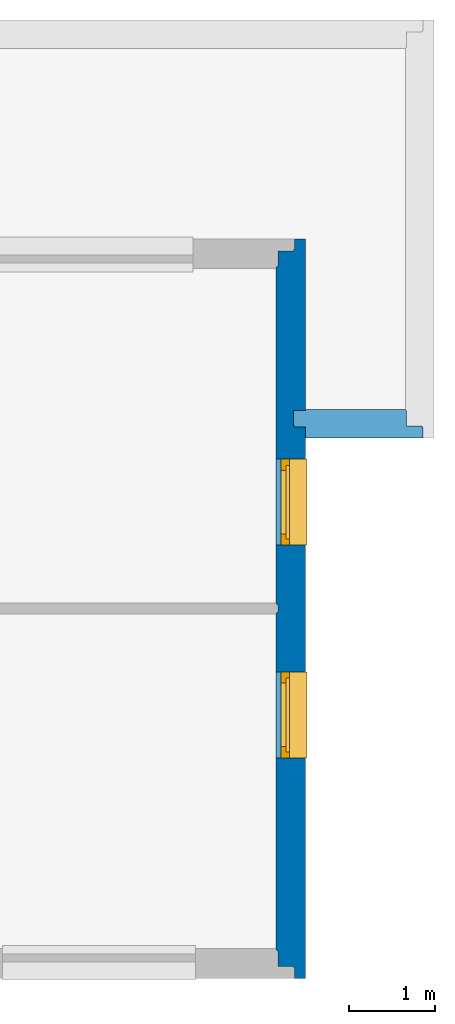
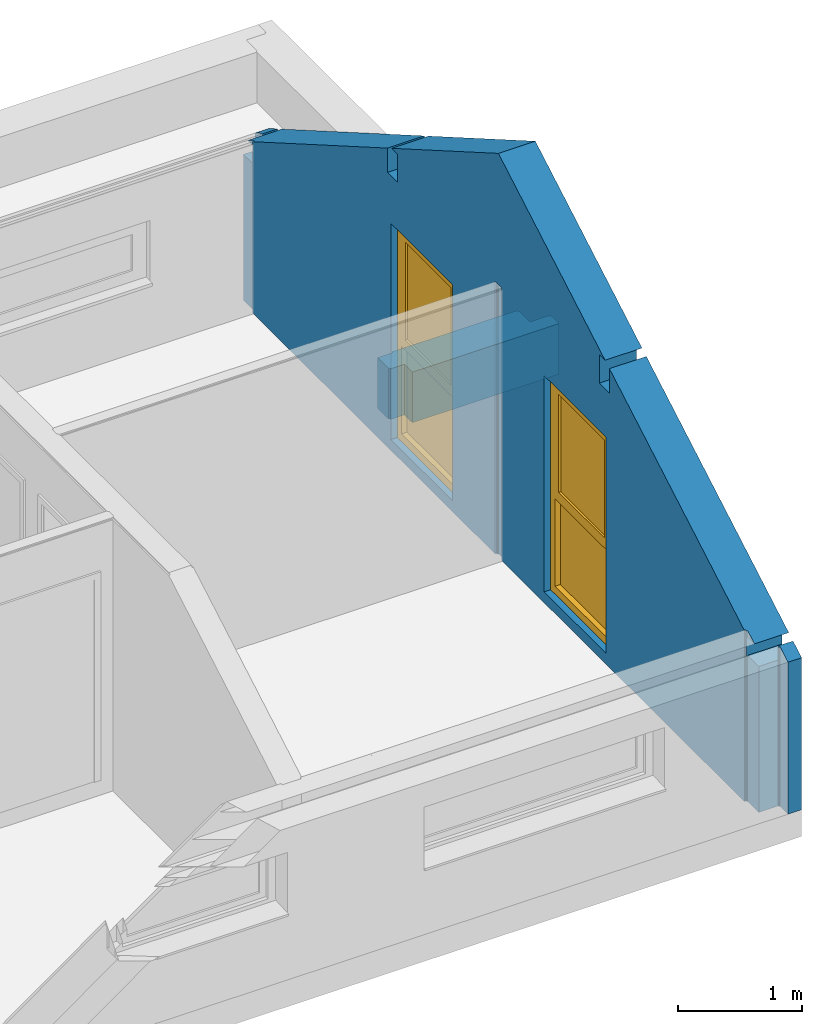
# One storey, part 6 of 7: 2 walls, 2 windows, 2 openings.
"""IFC2X3 building model written with IfcOpenShell, lengths in millimetres."""

from ifc_helpers import new_model, entity, si_unit, converted_unit, derived_unit, money_unit, direction, frame, origin_with_axes, place, context, subcontext, project, spatial, open_shell, faceted_brep, surface_model, material, material_list, type_object, element, fill, save


model = new_model("IFC2X3")

# Units and contexts
model_context = context("Model", 3, precision=0.01, world=origin_with_axes(), true_north=direction((0.0, 1.0)))
body_context = subcontext(model_context, "Body", "Model", "MODEL_VIEW")
ifc_project = project(units=[si_unit("LENGTHUNIT", "METRE", prefix="MILLI"), si_unit("AREAUNIT", "SQUARE_METRE"), si_unit("VOLUMEUNIT", "CUBIC_METRE"), converted_unit("PLANEANGLEUNIT", "DEGREE", entity("IfcPlaneAngleMeasure", 0.0174532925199), si_unit("PLANEANGLEUNIT", "RADIAN"), dimensions=[0, 0, 0, 0, 0, 0, 0]), si_unit("SOLIDANGLEUNIT", "STERADIAN"), money_unit("USD"), converted_unit("TIMEUNIT", "Year", entity("IfcTimeMeasure", 31556926.0), si_unit("TIMEUNIT", "SECOND"), dimensions=[0, 0, 1, 0, 0, 0, 0]), si_unit("MASSUNIT", "GRAM", prefix="KILO"), si_unit("THERMODYNAMICTEMPERATUREUNIT", "DEGREE_CELSIUS"), si_unit("LUMINOUSINTENSITYUNIT", "LUMEN"), si_unit("ENERGYUNIT", "JOULE", prefix="MEGA"), derived_unit("THERMALCONDUCTANCEUNIT", [(si_unit("POWERUNIT", "WATT"), 1), (si_unit("LENGTHUNIT", "METRE"), -1), (si_unit("THERMODYNAMICTEMPERATUREUNIT", "KELVIN"), -1)]), derived_unit("SPECIFICHEATCAPACITYUNIT", [(si_unit("ENERGYUNIT", "JOULE"), 1), (si_unit("MASSUNIT", "GRAM", prefix="KILO"), -1), (si_unit("THERMODYNAMICTEMPERATUREUNIT", "KELVIN"), -1)]), derived_unit("MASSDENSITYUNIT", [(si_unit("MASSUNIT", "GRAM", prefix="KILO"), 1), (si_unit("VOLUMEUNIT", "CUBIC_METRE"), -1)])], contexts=[model_context])

# Site, building, storey
site_placement = place(None, origin_with_axes())
site = spatial("IfcSite", under=ifc_project, at=site_placement, Name="Lokalizacja", CompositionType="ELEMENT")
building_placement = place(site_placement, origin_with_axes())
building = spatial("IfcBuilding", under=site, at=building_placement, Name="Budynek", CompositionType="ELEMENT")
storey_placement = place(building_placement, frame((0.0, 0.0, 2954.0), z_axis=(0.0, 0.0, 1.0), x_axis=(1.0, 0.0, 0.0)))
storey = spatial("IfcBuildingStorey", under=building, at=storey_placement, Name="DG", CompositionType="ELEMENT", Elevation=2954.0)

# Wall, openings, windows
ifc_material_1 = material(Name="Płyty styropianowe miękkie")
ifc_material_2 = material(Name="Płyta OSB")
ifc_material_3 = material(Name="Drewno konstrukcyjne")
ifc_material_4 = material(Name="Płyta GK")
ifc_material_list_1 = material_list([ifc_material_1, ifc_material_2, ifc_material_3, ifc_material_2, ifc_material_4])
wall_type_1 = type_object("IfcWallType", Name="002- _dan_SZ_345 345", PredefinedType="NOTDEFINED")
wall_1_placement = place(storey_placement, frame((8640.00006108, 1.16529008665e-09, -160.0), z_axis=(0.0, 0.0, 1.0), x_axis=(0.0, -1.0, 0.0)))
wall_1 = element("IfcWall", 1, at=wall_1_placement, inside=storey, type_object=wall_type_1, material=ifc_material_list_1, Name="SZ2", context=body_context, shape_type="Brep", body=[
    faceted_brep([(8135.00031537, 216.999990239, 1580.90301349), (8135.00031537, 345.0, 1580.90301349), (8135.00031537, 345.0, 1441.31753233), (8135.00031537, 216.999990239, 1441.31753233), (8274.99728939, 345.000012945, 1500.07572285), (8274.99728939, 216.999991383, 1500.07572285), (3965.00011567, 345.000009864, 3988.45375131), (5690.90864033, 345.0, 2992.0), (5601.00236524, 345.0, 2992.0), (5601.00236524, 345.0, 2712.0), (5761.00236524, 345.0, 2712.0), (5761.00236524, 345.0, 2951.53136905), (8065.00031537, 345.0, 1621.31753233), (7955.00031537, 345.0, 1621.31753233), (7955.00031537, 345.0, 1441.31753233), (8274.99728939, 345.0, 0.0), (1847.00000896, 345.0, 0.0), (1847.00000896, 345.000014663, 500.0), (1655.00000896, 345.000014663, 500.0), (1655.00000896, 345.0, 0.0), (-344.999995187, 345.0, 0.0), (-344.999995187, 345.00000447, 1500.07397858), (-205.0, 345.0, 1580.90301349), (-205.0, 345.0, 1441.31753233), (-25.0, 345.0, 1441.31753233), (-25.0, 345.0, 1621.31753233), (-135.000000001, 345.0, 1621.31753233), (2169.00015984, 345.0, 2951.53264483), (2169.00015984, 345.0, 2712.0), (2329.00015984, 345.0, 2712.0), (2329.00015984, 345.0, 2992.0), (2239.09167504, 345.0, 2992.0), (7955.00031537, 216.999990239, 1441.31753233), (5690.90864033, 216.999990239, 2992.0), (3965.00010232, 216.999987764, 3988.45375901), (2239.09167504, 216.999990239, 2992.0), (2329.00015984, 216.999990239, 2992.0), (2329.00015984, 216.999990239, 2712.0), (2169.00015984, 216.999990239, 2712.0), (2169.00015984, 216.999990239, 2951.53264483), (-135.000000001, 216.999990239, 1621.31753233), (-25.0, 216.999990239, 1621.31753233), (-25.0, 216.999990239, 1441.31753233), (-205.0, 216.999990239, 1441.31753233), (-205.0, 216.999990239, 1580.90301349), (-344.999995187, 216.999987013, 1500.07397858), (-344.999995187, 217.0, 0.0), (1655.00000896, 217.0, 0.0), (1655.00000896, 216.999990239, 500.0), (1847.00000896, 216.999990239, 500.0), (1847.00000896, 217.0, 0.0), (8274.99728939, 217.0, 0.0), (7955.00031537, 216.999990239, 1621.31753233), (8065.00031537, 216.999990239, 1621.31753233), (5761.00236524, 216.999990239, 2951.53136905), (5761.00236524, 216.999990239, 2712.0), (5601.00236524, 216.999990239, 2712.0), (5601.00236524, 216.999990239, 2992.0)], [[[0, 1, 2, 3]], [[4, 1, 0, 5]], [[6, 7, 8, 9, 10, 11, 12, 13, 14, 2, 1, 4, 15, 16, 17, 18, 19, 20, 21, 22, 23, 24, 25, 26, 27, 28, 29, 30, 31]], [[32, 3, 2, 14]], [[33, 34, 35, 36, 37, 38, 39, 40, 41, 42, 43, 44, 45, 46, 47, 48, 49, 50, 51, 5, 0, 3, 32, 52, 53, 54, 55, 56, 57]], [[4, 5, 51, 15]], [[7, 6, 34, 33]], [[7, 33, 57, 8]], [[57, 56, 9, 8]], [[56, 55, 10, 9]], [[54, 11, 10, 55]], [[11, 54, 53, 12]], [[12, 53, 52, 13]], [[52, 32, 14, 13]], [[16, 15, 51, 50]], [[16, 50, 49, 17]], [[49, 48, 18, 17]], [[18, 48, 47, 19]], [[47, 46, 20, 19]], [[46, 45, 21, 20]], [[44, 22, 21, 45]], [[23, 22, 44, 43]], [[43, 42, 24, 23]], [[42, 41, 25, 24]], [[41, 40, 26, 25]], [[27, 26, 40, 39]], [[28, 27, 39, 38]], [[38, 37, 29, 28]], [[37, 36, 30, 29]], [[36, 35, 31, 30]], [[34, 6, 31, 35]]]),
    faceted_brep([(8135.00031537, 205.0, 1580.90301349), (8135.00031537, 216.999990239, 1580.90301349), (8135.00031537, 216.999990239, 1441.31753233), (8135.00031537, 205.0, 1441.31753233), (8146.99728939, 216.999990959, 1573.97655731), (8146.99728939, 205.0, 1573.97655731), (3965.00010232, 216.999987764, 3988.45375901), (5690.90864033, 216.999990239, 2992.0), (5601.00236524, 216.999990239, 2992.0), (5601.00236524, 216.999990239, 2712.0), (5761.00236524, 216.999990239, 2712.0), (5761.00236524, 216.999990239, 2951.53136905), (8065.00031537, 216.999990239, 1621.31753233), (7955.00031537, 216.999990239, 1621.31753233), (7955.00031537, 216.999990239, 1441.31753233), (8146.99728939, 217.0, 0.0), (1835.00000896, 217.0, 0.0), (1835.00000896, 216.999990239, 500.0), (1655.00000896, 216.999990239, 500.0), (1655.00000896, 217.0, 0.0), (-217.0, 217.0, 0.0), (-217.0, 216.999986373, 1573.97481026), (-205.0, 216.999990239, 1580.90301349), (-205.0, 216.999990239, 1441.31753233), (-25.0, 216.999990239, 1441.31753233), (-25.0, 216.999990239, 1621.31753233), (-135.000000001, 216.999990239, 1621.31753233), (2169.00015984, 216.999990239, 2951.53264483), (2169.00015984, 216.999990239, 2712.0), (2329.00015984, 216.999990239, 2712.0), (2329.00015984, 216.999990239, 2992.0), (2239.09167504, 216.999990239, 2992.0), (7955.00031537, 205.0, 1441.31753233), (5690.90864033, 205.0, 2992.0), (3965.00010107, 205.0, 3988.45375974), (2239.09167504, 205.0, 2992.0), (2329.00015984, 205.0, 2992.0), (2329.00015984, 205.0, 2712.0), (2169.00015984, 205.0, 2712.0), (2169.00015984, 205.0, 2951.53264483), (-135.000000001, 205.0, 1621.31753233), (-25.0, 205.0, 1621.31753233), (-25.0, 205.0, 1441.31753233), (-205.0, 205.0, 1441.31753233), (-205.0, 205.0, 1580.90301349), (-217.0, 205.0, 1573.97481026), (-217.0, 205.0, 0.0), (1655.00000896, 205.0, 0.0), (1655.00000896, 205.0, 500.0), (1835.00000896, 205.0, 500.0), (1835.00000896, 205.0, 0.0), (8146.99728939, 205.0, 0.0), (7955.00031537, 205.0, 1621.31753233), (8065.00031537, 205.0, 1621.31753233), (5761.00236524, 205.0, 2951.53136905), (5761.00236524, 205.0, 2712.0), (5601.00236524, 205.0, 2712.0), (5601.00236524, 205.0, 2992.0)], [[[0, 1, 2, 3]], [[4, 1, 0, 5]], [[6, 7, 8, 9, 10, 11, 12, 13, 14, 2, 1, 4, 15, 16, 17, 18, 19, 20, 21, 22, 23, 24, 25, 26, 27, 28, 29, 30, 31]], [[32, 3, 2, 14]], [[33, 34, 35, 36, 37, 38, 39, 40, 41, 42, 43, 44, 45, 46, 47, 48, 49, 50, 51, 5, 0, 3, 32, 52, 53, 54, 55, 56, 57]], [[4, 5, 51, 15]], [[7, 6, 34, 33]], [[7, 33, 57, 8]], [[57, 56, 9, 8]], [[56, 55, 10, 9]], [[54, 11, 10, 55]], [[11, 54, 53, 12]], [[12, 53, 52, 13]], [[52, 32, 14, 13]], [[51, 50, 16, 15]], [[16, 50, 49, 17]], [[17, 49, 48, 18]], [[18, 48, 47, 19]], [[47, 46, 20, 19]], [[46, 45, 21, 20]], [[44, 22, 21, 45]], [[23, 22, 44, 43]], [[43, 42, 24, 23]], [[42, 41, 25, 24]], [[41, 40, 26, 25]], [[27, 26, 40, 39]], [[28, 27, 39, 38]], [[38, 37, 29, 28]], [[37, 36, 30, 29]], [[36, 35, 31, 30]], [[34, 6, 31, 35]]]),
    faceted_brep([(5761.00236524, 25.0, 2951.53136905), (5761.00236524, 205.0, 2951.53136905), (5761.00236524, 205.0, 2712.0), (5761.00236524, 25.0, 2712.0), (8065.00031537, 25.0, 1621.31753233), (8065.00031537, 205.0, 1621.31753233), (3965.00010107, 205.0, 3988.45375974), (5690.90864033, 205.0, 2992.0), (5601.00236524, 205.0, 2992.0), (5601.00236524, 205.0, 2712.0), (7955.00031537, 205.0, 1621.31753233), (7955.00031537, 205.0, 1441.31753233), (8135.00031537, 205.0, 1441.31753233), (8134.99728939, 205.0, 0.0), (-205.0, 205.0, 0.0), (-205.0, 205.0, 1441.31753233), (-25.0, 205.0, 1441.31753233), (-25.0, 205.0, 1621.31753233), (-135.000000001, 205.0, 1621.31753233), (2169.00015984, 205.0, 2951.53264483), (2169.00015984, 205.0, 2712.0), (2329.00015984, 205.0, 2712.0), (2329.00015984, 205.0, 2992.0), (2239.09167504, 205.0, 2992.0), (5601.00236524, 25.0, 2712.0), (5690.90864033, 25.0, 2992.0), (3965.0000823, 25.0, 3988.45377058), (2239.09167504, 25.0, 2992.0), (2329.00015984, 25.0, 2992.0), (2329.00015984, 25.0, 2712.0), (2169.00015984, 25.0, 2712.0), (2169.00015984, 25.0, 2951.53264483), (-135.000000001, 25.0, 1621.31753233), (-25.0, 25.0, 1621.31753233), (-25.0, 25.0, 1441.31753233), (-205.0, 25.0, 1441.31753233), (-205.0, 25.0, 0.0), (8134.99728939, 25.0, 0.0), (8135.00031537, 25.0, 1441.31753233), (7955.00031537, 25.0, 1441.31753233), (7955.00031537, 25.0, 1621.31753233), (5601.00236524, 25.0, 2992.0)], [[[0, 1, 2, 3]], [[1, 0, 4, 5]], [[6, 7, 8, 9, 2, 1, 5, 10, 11, 12, 13, 14, 15, 16, 17, 18, 19, 20, 21, 22, 23]], [[24, 3, 2, 9]], [[25, 26, 27, 28, 29, 30, 31, 32, 33, 34, 35, 36, 37, 38, 39, 40, 4, 0, 3, 24, 41]], [[5, 4, 40, 10]], [[7, 6, 26, 25]], [[7, 25, 41, 8]], [[41, 24, 9, 8]], [[40, 39, 11, 10]], [[39, 38, 12, 11]], [[37, 13, 12, 38]], [[37, 36, 14, 13]], [[14, 36, 35, 15]], [[35, 34, 16, 15]], [[34, 33, 17, 16]], [[33, 32, 18, 17]], [[19, 18, 32, 31]], [[20, 19, 31, 30]], [[30, 29, 21, 20]], [[29, 28, 22, 21]], [[28, 27, 23, 22]], [[26, 6, 23, 27]]]),
    faceted_brep([(5761.00236524, 13.0, 2951.53136905), (5761.00236524, 25.0, 2951.53136905), (5761.00236524, 25.0, 2712.0), (5761.00236524, 13.0, 2712.0), (7954.99728939, 12.9999855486, 1684.82780899), (7954.99728939, 25.0, 1684.82780899), (3965.0000823, 25.0, 3988.45377058), (5690.90864033, 25.0, 2992.0), (5601.00236524, 25.0, 2992.0), (5601.00236524, 25.0, 2712.0), (7954.99728939, 25.0, 0.0), (4004.99907417, 25.0, 0.0), (4004.99907417, 25.0, 2690.0), (3924.99907417, 25.0, 2690.0), (3924.99907417, 25.0, 0.0), (-25.0, 25.0, 0.0), (-25.0, 25.0, 1684.82606195), (2169.00015984, 25.0, 2951.53264483), (2169.00015984, 25.0, 2712.0), (2329.00015984, 25.0, 2712.0), (2329.00015984, 25.0, 2992.0), (2239.09167504, 25.0, 2992.0), (5601.00236524, 13.0, 2712.0), (5690.90864033, 13.0, 2992.0), (3965.00008104, 12.9999903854, 3988.4537713), (2239.09167504, 13.0, 2992.0), (2329.00015984, 13.0, 2992.0), (2329.00015984, 13.0, 2712.0), (2169.00015984, 13.0, 2712.0), (2169.00015984, 13.0, 2951.53264483), (-25.0, 12.9999953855, 1684.82606195), (-25.0, 13.0, 0.0), (3924.99907417, 13.0, 0.0), (3924.99907417, 12.9999854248, 2690.0), (4004.99907417, 12.9999854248, 2690.0), (4004.99907417, 13.0, 0.0), (7954.99728939, 13.0, 0.0), (5601.00236524, 13.0, 2992.0)], [[[0, 1, 2, 3]], [[1, 0, 4, 5]], [[6, 7, 8, 9, 2, 1, 5, 10, 11, 12, 13, 14, 15, 16, 17, 18, 19, 20, 21]], [[22, 3, 2, 9]], [[23, 24, 25, 26, 27, 28, 29, 30, 31, 32, 33, 34, 35, 36, 4, 0, 3, 22, 37]], [[5, 4, 36, 10]], [[7, 6, 24, 23]], [[7, 23, 37, 8]], [[37, 22, 9, 8]], [[36, 35, 11, 10]], [[11, 35, 34, 12]], [[12, 34, 33, 13]], [[13, 33, 32, 14]], [[32, 31, 15, 14]], [[31, 30, 16, 15]], [[17, 16, 30, 29]], [[18, 17, 29, 28]], [[28, 27, 19, 18]], [[27, 26, 20, 19]], [[26, 25, 21, 20]], [[24, 6, 21, 25]]]),
    faceted_brep([(5761.00236524, 0.0, 2951.53136905), (5761.00236524, 12.9999854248, 2951.53136905), (5761.00236524, 12.9999854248, 2712.0), (5761.00236524, 0.0, 2712.0), (7942.99728939, 0.0, 1691.75601222), (7942.99728939, 12.9999854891, 1691.75601222), (3965.00008104, 12.9999903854, 3988.4537713), (5690.90864033, 12.9999854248, 2992.0), (5601.00236524, 12.9999854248, 2992.0), (5601.00236524, 12.9999854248, 2712.0), (7942.99728939, 13.0, 0.0), (4016.99907417, 13.0, 0.0), (4016.99907417, 12.9999854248, 2690.0), (3912.99907417, 12.9999854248, 2690.0), (3912.99907417, 13.0, 0.0), (-13.0, 13.0, 0.0), (-13.0, 12.9999953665, 1691.75426518), (2169.00015984, 12.9999854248, 2951.53264483), (2169.00015984, 12.9999854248, 2712.0), (2329.00015984, 12.9999854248, 2712.0), (2329.00015984, 12.9999854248, 2992.0), (2239.09167504, 12.9999854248, 2992.0), (5601.00236524, 0.0, 2712.0), (5690.90864033, 0.0, 2992.0), (3965.00007969, 0.0, 3988.45377208), (2239.09167504, 0.0, 2992.0), (2329.00015984, 0.0, 2992.0), (2329.00015984, 0.0, 2712.0), (2169.00015984, 0.0, 2712.0), (2169.00015984, 0.0, 2951.53264483), (-13.0, 0.0, 1691.75426518), (-13.0, 0.0, 0.0), (3912.99907417, 0.0, 0.0), (3912.99907417, 0.0, 2690.0), (4016.99907417, 0.0, 2690.0), (4016.99907417, 0.0, 0.0), (7942.99728939, 0.0, 0.0), (5601.00236524, 0.0, 2992.0)], [[[0, 1, 2, 3]], [[1, 0, 4, 5]], [[6, 7, 8, 9, 2, 1, 5, 10, 11, 12, 13, 14, 15, 16, 17, 18, 19, 20, 21]], [[22, 3, 2, 9]], [[23, 24, 25, 26, 27, 28, 29, 30, 31, 32, 33, 34, 35, 36, 4, 0, 3, 22, 37]], [[5, 4, 36, 10]], [[7, 6, 24, 23]], [[7, 23, 37, 8]], [[37, 22, 9, 8]], [[36, 35, 11, 10]], [[11, 35, 34, 12]], [[34, 33, 13, 12]], [[13, 33, 32, 14]], [[32, 31, 15, 14]], [[31, 30, 16, 15]], [[17, 16, 30, 29]], [[18, 17, 29, 28]], [[28, 27, 19, 18]], [[27, 26, 20, 19]], [[26, 25, 21, 20]], [[24, 6, 21, 25]]]),
])
opening_1_placement = place(wall_1_placement, frame((5205.00023787, 0.0, 107.0), z_axis=(0.0, 0.0, 1.0), x_axis=(1.0, 0.0, 0.0)))
opening_1 = element("IfcOpeningElement", 2, at=opening_1_placement, cuts=wall_1, context=body_context, shape_type="Brep", body=[
    faceted_brep([(500.0, 157.0, 2135.0), (500.0, 157.0, 0.0), (500.0, 690.0, 0.0), (500.0, 690.0, 2135.0), (-500.0, 157.0, 2135.0), (-500.0, 157.0, 0.0), (-500.0, 690.0, 0.0), (-500.0, 690.0, 2135.0)], [[[0, 1, 2, 3]], [[0, 4, 5, 1]], [[1, 5, 6, 2]], [[3, 2, 6, 7]], [[4, 0, 3, 7]], [[5, 4, 7, 6]]]),
    faceted_brep([(500.0, 157.0, 0.0), (500.0, 157.0, 2135.0), (500.0, -345.0, 2135.0), (500.0, -345.0, 0.0), (-500.0, 157.0, 0.0), (-500.0, 157.0, 2135.0), (-500.0, -345.0, 2135.0), (-500.0, -345.0, 0.0)], [[[0, 1, 2, 3]], [[0, 4, 5, 1]], [[1, 5, 6, 2]], [[3, 2, 6, 7]], [[4, 0, 3, 7]], [[5, 4, 7, 6]]]),
])
opening_2_placement = place(wall_1_placement, frame((2725.0002815, 0.0, 107.0), z_axis=(0.0, 0.0, 1.0), x_axis=(1.0, 0.0, 0.0)))
opening_2 = element("IfcOpeningElement", 3, at=opening_2_placement, cuts=wall_1, context=body_context, shape_type="Brep", body=[
    faceted_brep([(500.0, 157.0, 2135.0), (500.0, 157.0, 0.0), (500.0, 690.0, 0.0), (500.0, 690.0, 2135.0), (-500.0, 157.0, 2135.0), (-500.0, 157.0, 0.0), (-500.0, 690.0, 0.0), (-500.0, 690.0, 2135.0)], [[[0, 1, 2, 3]], [[0, 4, 5, 1]], [[1, 5, 6, 2]], [[3, 2, 6, 7]], [[4, 0, 3, 7]], [[5, 4, 7, 6]]]),
    faceted_brep([(500.0, 157.0, 0.0), (500.0, 157.0, 2135.0), (500.0, -345.0, 2135.0), (500.0, -345.0, 0.0), (-500.0, 157.0, 0.0), (-500.0, 157.0, 2135.0), (-500.0, -345.0, 2135.0), (-500.0, -345.0, 0.0)], [[[0, 1, 2, 3]], [[0, 4, 5, 1]], [[1, 5, 6, 2]], [[3, 2, 6, 7]], [[4, 0, 3, 7]], [[5, 4, 7, 6]]]),
])
window_style_1 = type_object("IfcWindowStyle", Name="Okno nietypowe 24", ConstructionType="NOTDEFINED", OperationType="DOUBLE_PANEL_HORIZONTAL", ParameterTakesPrecedence=False, Sizeable=False)
window_1_placement = place(opening_2_placement, frame((490.0, 0.0, 0.0), z_axis=(0.0, 0.0, 1.0), x_axis=(-1.0, 0.0, 0.0)))
window_1 = element("IfcWindow", 4, at=window_1_placement, inside=storey, type_object=window_style_1, OverallHeight=2135.0, OverallWidth=1000.0, context=body_context, shape_type="SurfaceModel", body=[
    faceted_brep([(990.0, -61.0, 2065.0), (920.1, -61.0, 2065.0), (920.1, -121.0, 2065.0), (920.0, -121.0, 2065.0), (920.0, -157.0, 2065.0), (990.0, -157.0, 2065.0), (920.0, -61.0, 979.9), (920.1, -61.0, 979.9), (990.0, -61.0, 77.0), (920.0, -61.0, 77.0), (920.0, -61.0, 940.0), (920.1, -121.0, 979.9), (920.0, -121.0, 979.9), (920.0, -121.0, 980.0), (920.0, -157.0, 980.0), (920.0, -157.0, 940.0), (920.0, -157.0, 77.0), (990.0, -157.0, 77.0)], [[[0, 1, 2, 3, 4, 5]], [[6, 7, 1, 0, 8, 9, 10]], [[11, 2, 1, 7]], [[12, 13, 3, 2, 11]], [[4, 3, 13, 14]], [[4, 14, 15, 16, 17, 5]], [[8, 0, 5, 17]], [[11, 7, 6, 12]], [[9, 8, 17, 16]], [[10, 9, 16, 15]], [[13, 12, 6, 10, 15, 14]]]),
    faceted_brep([(60.0, -157.0, 2065.0), (60.0, -121.0, 2065.0), (59.9, -121.0, 2065.0), (59.9, -61.0, 2065.0), (-10.0, -61.0, 2065.0), (-10.0, -157.0, 2065.0), (60.0, -157.0, 980.0), (60.0, -121.0, 980.0), (59.9, -121.0, 979.9), (60.0, -121.0, 979.9), (59.9, -61.0, 979.9), (60.0, -61.0, 979.9), (60.0, -61.0, 940.0), (60.0, -61.0, 77.0), (-10.0, -61.0, 77.0), (-10.0, -157.0, 77.0), (60.0, -157.0, 77.0), (60.0, -157.0, 940.0)], [[[0, 1, 2, 3, 4, 5]], [[6, 7, 1, 0]], [[8, 2, 1, 7, 9]], [[8, 10, 3, 2]], [[3, 10, 11, 12, 13, 14, 4]], [[4, 14, 15, 5]], [[5, 15, 16, 17, 6, 0]], [[11, 9, 7, 6, 17, 12]], [[9, 11, 10, 8]], [[13, 12, 17, 16]], [[14, 13, 16, 15]]]),
    faceted_brep([(990.0, -61.0, 2065.0), (920.1, -61.0, 2065.0), (920.1, -61.0, 2065.1), (59.9, -61.0, 2065.1), (59.9, -61.0, 2065.0), (-10.0, -61.0, 2065.0), (-10.0, -61.0, 2135.0), (990.0, -61.0, 2135.0), (920.0, -121.0, 2065.0), (920.1, -121.0, 2065.0), (990.0, -157.0, 2065.0), (920.0, -157.0, 2065.0), (920.1, -121.0, 2065.1), (59.9, -121.0, 2065.1), (59.9, -121.0, 2065.0), (60.0, -121.0, 2065.0), (60.0, -157.0, 2065.0), (-10.0, -157.0, 2065.0), (-10.0, -157.0, 2135.0), (990.0, -157.0, 2135.0)], [[[0, 1, 2, 3, 4, 5, 6, 7]], [[8, 9, 1, 0, 10, 11]], [[12, 2, 1, 9]], [[13, 3, 2, 12]], [[14, 4, 3, 13]], [[4, 14, 15, 16, 17, 5]], [[6, 5, 17, 18]], [[7, 6, 18, 19]], [[0, 7, 19, 10]], [[8, 15, 14, 13, 12, 9]], [[18, 17, 16, 11, 10, 19]], [[16, 15, 8, 11]]]),
    faceted_brep([(119.9, -61.0, 1039.9), (119.9, -121.0, 1039.9), (59.9, -121.0, 1039.9), (59.9, -61.0, 1039.9), (119.9, -61.0, 2005.1), (119.9, -121.0, 2005.1), (59.9, -121.0, 2005.1), (59.9, -61.0, 2005.1)], [[[0, 1, 2, 3]], [[4, 5, 1, 0]], [[2, 1, 5, 6]], [[3, 2, 6, 7]], [[4, 0, 3, 7]], [[7, 6, 5, 4]]]),
    faceted_brep([(920.1, -61.0, 2065.1), (920.1, -121.0, 2065.1), (920.1, -121.0, 2005.1), (920.1, -61.0, 2005.1), (59.9, -61.0, 2065.1), (59.9, -121.0, 2065.1), (59.9, -121.0, 2005.1), (119.9, -121.0, 2005.1), (860.1, -121.0, 2005.1), (860.1, -61.0, 2005.1), (119.9, -61.0, 2005.1), (59.9, -61.0, 2005.1)], [[[0, 1, 2, 3]], [[4, 5, 1, 0]], [[2, 1, 5, 6, 7, 8]], [[3, 2, 8, 9]], [[4, 0, 3, 9, 10, 11]], [[11, 6, 5, 4]], [[10, 7, 6, 11]], [[9, 8, 7, 10]]]),
    surface_model("IfcShellBasedSurfaceModel", [(860.1, -101.0, 1039.9), (860.1, -101.0, 2005.1), (119.9, -101.0, 2005.1), (119.9, -101.0, 1039.9)], [open_shell([[[0, 1, 2, 3]]])]),
    surface_model("IfcShellBasedSurfaceModel", [(860.1, -81.0, 1039.9), (119.9, -81.0, 1039.9), (119.9, -81.0, 2005.1), (860.1, -81.0, 2005.1)], [open_shell([[[0, 1, 2, 3]]])]),
    faceted_brep([(860.1, -61.0, 2005.1), (860.1, -121.0, 2005.1), (920.1, -121.0, 2005.1), (920.1, -61.0, 2005.1), (860.1, -61.0, 1039.9), (860.1, -121.0, 1039.9), (920.1, -121.0, 1039.9), (920.1, -61.0, 1039.9)], [[[0, 1, 2, 3]], [[4, 5, 1, 0]], [[2, 1, 5, 6]], [[3, 2, 6, 7]], [[4, 0, 3, 7]], [[7, 6, 5, 4]]]),
    faceted_brep([(59.9, -61.0, 979.9), (59.9, -121.0, 979.9), (59.9, -121.0, 1039.9), (59.9, -61.0, 1039.9), (920.1, -61.0, 979.9), (920.1, -121.0, 979.9), (920.1, -121.0, 1039.9), (860.1, -121.0, 1039.9), (119.9, -121.0, 1039.9), (119.9, -61.0, 1039.9), (860.1, -61.0, 1039.9), (920.1, -61.0, 1039.9)], [[[0, 1, 2, 3]], [[4, 5, 1, 0]], [[2, 1, 5, 6, 7, 8]], [[3, 2, 8, 9]], [[4, 0, 3, 9, 10, 11]], [[11, 6, 5, 4]], [[10, 7, 6, 11]], [[9, 8, 7, 10]]]),
    surface_model("IfcShellBasedSurfaceModel", [(990.0, -158.0, 50.0), (-10.0, -158.0, 50.0), (-10.0, -158.0, 40.0), (990.0, -158.0, 40.0), (-10.0, -365.0, 28.9361702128), (990.0, -365.0, 28.9361702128), (-10.0, -365.0, 8.93617021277), (990.0, -365.0, 8.93617021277), (-10.0, -355.0, 18.9361702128), (990.0, -355.0, 18.9361702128)], [open_shell([[[0, 1, 2, 3]], [[3, 2, 4, 5]], [[5, 4, 6, 7]], [[7, 6, 8, 9]]])]),
    faceted_brep([(920.0, -121.0, 980.0), (60.0, -121.0, 980.0), (60.0, -157.0, 980.0), (920.0, -157.0, 980.0), (60.0, -121.0, 979.9), (920.0, -121.0, 979.9), (60.0, -61.0, 979.9), (60.0, -61.0, 940.0), (60.0, -157.0, 940.0), (920.0, -157.0, 940.0), (920.0, -61.0, 940.0), (920.0, -61.0, 979.9)], [[[0, 1, 2, 3]], [[4, 1, 0, 5]], [[4, 6, 7, 8, 2, 1]], [[8, 9, 3, 2]], [[5, 0, 3, 9, 10, 11]], [[11, 6, 4, 5]], [[6, 11, 10, 7]], [[10, 9, 8, 7]]]),
    faceted_brep([(920.0, -157.0, 77.0), (990.0, -157.0, 77.0), (990.0, -61.0, 77.0), (920.0, -61.0, 77.0), (60.0, -157.0, 77.0), (-10.0, -157.0, 77.0), (-10.0, -157.0, 0.0), (990.0, -157.0, 0.0), (990.0, -61.0, 0.0), (-10.0, -61.0, 0.0), (-10.0, -61.0, 77.0), (60.0, -61.0, 77.0)], [[[0, 1, 2, 3]], [[0, 4, 5, 6, 7, 1]], [[1, 7, 8, 2]], [[3, 2, 8, 9, 10, 11]], [[4, 0, 3, 11]], [[5, 4, 11, 10]], [[6, 5, 10, 9]], [[7, 6, 9, 8]]]),
    surface_model("IfcShellBasedSurfaceModel", [(920.0, -131.0, 77.0), (920.0, -131.0, 940.0), (60.0, -131.0, 940.0), (60.0, -131.0, 77.0)], [open_shell([[[0, 1, 2, 3]]])]),
    surface_model("IfcShellBasedSurfaceModel", [(920.0, -111.0, 77.0), (60.0, -111.0, 77.0), (60.0, -111.0, 940.0), (920.0, -111.0, 940.0)], [open_shell([[[0, 1, 2, 3]]])]),
])
fill(opening_2, window_1)
window_style_2 = type_object("IfcWindowStyle", Name="Okno nietypowe 24", ConstructionType="NOTDEFINED", OperationType="DOUBLE_PANEL_HORIZONTAL", ParameterTakesPrecedence=False, Sizeable=False)
window_2_placement = place(opening_1_placement, frame((490.0, 0.0, 0.0), z_axis=(0.0, 0.0, 1.0), x_axis=(-1.0, 0.0, 0.0)))
window_2 = element("IfcWindow", 5, at=window_2_placement, inside=storey, type_object=window_style_2, OverallHeight=2135.0, OverallWidth=1000.0, context=body_context, shape_type="SurfaceModel", body=[
    faceted_brep([(990.0, -61.0, 2065.0), (920.1, -61.0, 2065.0), (920.1, -121.0, 2065.0), (920.0, -121.0, 2065.0), (920.0, -157.0, 2065.0), (990.0, -157.0, 2065.0), (920.0, -61.0, 979.9), (920.1, -61.0, 979.9), (990.0, -61.0, 77.0), (920.0, -61.0, 77.0), (920.0, -61.0, 940.0), (920.1, -121.0, 979.9), (920.0, -121.0, 979.9), (920.0, -121.0, 980.0), (920.0, -157.0, 980.0), (920.0, -157.0, 940.0), (920.0, -157.0, 77.0), (990.0, -157.0, 77.0)], [[[0, 1, 2, 3, 4, 5]], [[6, 7, 1, 0, 8, 9, 10]], [[11, 2, 1, 7]], [[12, 13, 3, 2, 11]], [[4, 3, 13, 14]], [[4, 14, 15, 16, 17, 5]], [[8, 0, 5, 17]], [[11, 7, 6, 12]], [[9, 8, 17, 16]], [[10, 9, 16, 15]], [[13, 12, 6, 10, 15, 14]]]),
    faceted_brep([(60.0, -157.0, 2065.0), (60.0, -121.0, 2065.0), (59.9, -121.0, 2065.0), (59.9, -61.0, 2065.0), (-10.0, -61.0, 2065.0), (-10.0, -157.0, 2065.0), (60.0, -157.0, 980.0), (60.0, -121.0, 980.0), (59.9, -121.0, 979.9), (60.0, -121.0, 979.9), (59.9, -61.0, 979.9), (60.0, -61.0, 979.9), (60.0, -61.0, 940.0), (60.0, -61.0, 77.0), (-10.0, -61.0, 77.0), (-10.0, -157.0, 77.0), (60.0, -157.0, 77.0), (60.0, -157.0, 940.0)], [[[0, 1, 2, 3, 4, 5]], [[6, 7, 1, 0]], [[8, 2, 1, 7, 9]], [[8, 10, 3, 2]], [[3, 10, 11, 12, 13, 14, 4]], [[4, 14, 15, 5]], [[5, 15, 16, 17, 6, 0]], [[11, 9, 7, 6, 17, 12]], [[9, 11, 10, 8]], [[13, 12, 17, 16]], [[14, 13, 16, 15]]]),
    faceted_brep([(990.0, -61.0, 2065.0), (920.1, -61.0, 2065.0), (920.1, -61.0, 2065.1), (59.9, -61.0, 2065.1), (59.9, -61.0, 2065.0), (-10.0, -61.0, 2065.0), (-10.0, -61.0, 2135.0), (990.0, -61.0, 2135.0), (920.0, -121.0, 2065.0), (920.1, -121.0, 2065.0), (990.0, -157.0, 2065.0), (920.0, -157.0, 2065.0), (920.1, -121.0, 2065.1), (59.9, -121.0, 2065.1), (59.9, -121.0, 2065.0), (60.0, -121.0, 2065.0), (60.0, -157.0, 2065.0), (-10.0, -157.0, 2065.0), (-10.0, -157.0, 2135.0), (990.0, -157.0, 2135.0)], [[[0, 1, 2, 3, 4, 5, 6, 7]], [[8, 9, 1, 0, 10, 11]], [[12, 2, 1, 9]], [[13, 3, 2, 12]], [[14, 4, 3, 13]], [[4, 14, 15, 16, 17, 5]], [[6, 5, 17, 18]], [[7, 6, 18, 19]], [[0, 7, 19, 10]], [[8, 15, 14, 13, 12, 9]], [[18, 17, 16, 11, 10, 19]], [[16, 15, 8, 11]]]),
    faceted_brep([(119.9, -61.0, 1039.9), (119.9, -121.0, 1039.9), (59.9, -121.0, 1039.9), (59.9, -61.0, 1039.9), (119.9, -61.0, 2005.1), (119.9, -121.0, 2005.1), (59.9, -121.0, 2005.1), (59.9, -61.0, 2005.1)], [[[0, 1, 2, 3]], [[4, 5, 1, 0]], [[2, 1, 5, 6]], [[3, 2, 6, 7]], [[4, 0, 3, 7]], [[7, 6, 5, 4]]]),
    faceted_brep([(920.1, -61.0, 2065.1), (920.1, -121.0, 2065.1), (920.1, -121.0, 2005.1), (920.1, -61.0, 2005.1), (59.9, -61.0, 2065.1), (59.9, -121.0, 2065.1), (59.9, -121.0, 2005.1), (119.9, -121.0, 2005.1), (860.1, -121.0, 2005.1), (860.1, -61.0, 2005.1), (119.9, -61.0, 2005.1), (59.9, -61.0, 2005.1)], [[[0, 1, 2, 3]], [[4, 5, 1, 0]], [[2, 1, 5, 6, 7, 8]], [[3, 2, 8, 9]], [[4, 0, 3, 9, 10, 11]], [[11, 6, 5, 4]], [[10, 7, 6, 11]], [[9, 8, 7, 10]]]),
    surface_model("IfcShellBasedSurfaceModel", [(860.1, -101.0, 1039.9), (860.1, -101.0, 2005.1), (119.9, -101.0, 2005.1), (119.9, -101.0, 1039.9)], [open_shell([[[0, 1, 2, 3]]])]),
    surface_model("IfcShellBasedSurfaceModel", [(860.1, -81.0, 1039.9), (119.9, -81.0, 1039.9), (119.9, -81.0, 2005.1), (860.1, -81.0, 2005.1)], [open_shell([[[0, 1, 2, 3]]])]),
    faceted_brep([(860.1, -61.0, 2005.1), (860.1, -121.0, 2005.1), (920.1, -121.0, 2005.1), (920.1, -61.0, 2005.1), (860.1, -61.0, 1039.9), (860.1, -121.0, 1039.9), (920.1, -121.0, 1039.9), (920.1, -61.0, 1039.9)], [[[0, 1, 2, 3]], [[4, 5, 1, 0]], [[2, 1, 5, 6]], [[3, 2, 6, 7]], [[4, 0, 3, 7]], [[7, 6, 5, 4]]]),
    faceted_brep([(59.9, -61.0, 979.9), (59.9, -121.0, 979.9), (59.9, -121.0, 1039.9), (59.9, -61.0, 1039.9), (920.1, -61.0, 979.9), (920.1, -121.0, 979.9), (920.1, -121.0, 1039.9), (860.1, -121.0, 1039.9), (119.9, -121.0, 1039.9), (119.9, -61.0, 1039.9), (860.1, -61.0, 1039.9), (920.1, -61.0, 1039.9)], [[[0, 1, 2, 3]], [[4, 5, 1, 0]], [[2, 1, 5, 6, 7, 8]], [[3, 2, 8, 9]], [[4, 0, 3, 9, 10, 11]], [[11, 6, 5, 4]], [[10, 7, 6, 11]], [[9, 8, 7, 10]]]),
    surface_model("IfcShellBasedSurfaceModel", [(990.0, -158.0, 50.0), (-10.0, -158.0, 50.0), (-10.0, -158.0, 40.0), (990.0, -158.0, 40.0), (-10.0, -365.0, 28.9361702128), (990.0, -365.0, 28.9361702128), (-10.0, -365.0, 8.93617021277), (990.0, -365.0, 8.93617021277), (-10.0, -355.0, 18.9361702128), (990.0, -355.0, 18.9361702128)], [open_shell([[[0, 1, 2, 3]], [[3, 2, 4, 5]], [[5, 4, 6, 7]], [[7, 6, 8, 9]]])]),
    faceted_brep([(920.0, -121.0, 980.0), (60.0, -121.0, 980.0), (60.0, -157.0, 980.0), (920.0, -157.0, 980.0), (60.0, -121.0, 979.9), (920.0, -121.0, 979.9), (60.0, -61.0, 979.9), (60.0, -61.0, 940.0), (60.0, -157.0, 940.0), (920.0, -157.0, 940.0), (920.0, -61.0, 940.0), (920.0, -61.0, 979.9)], [[[0, 1, 2, 3]], [[4, 1, 0, 5]], [[4, 6, 7, 8, 2, 1]], [[8, 9, 3, 2]], [[5, 0, 3, 9, 10, 11]], [[11, 6, 4, 5]], [[6, 11, 10, 7]], [[10, 9, 8, 7]]]),
    faceted_brep([(920.0, -157.0, 77.0), (990.0, -157.0, 77.0), (990.0, -61.0, 77.0), (920.0, -61.0, 77.0), (60.0, -157.0, 77.0), (-10.0, -157.0, 77.0), (-10.0, -157.0, 0.0), (990.0, -157.0, 0.0), (990.0, -61.0, 0.0), (-10.0, -61.0, 0.0), (-10.0, -61.0, 77.0), (60.0, -61.0, 77.0)], [[[0, 1, 2, 3]], [[0, 4, 5, 6, 7, 1]], [[1, 7, 8, 2]], [[3, 2, 8, 9, 10, 11]], [[4, 0, 3, 11]], [[5, 4, 11, 10]], [[6, 5, 10, 9]], [[7, 6, 9, 8]]]),
    surface_model("IfcShellBasedSurfaceModel", [(920.0, -131.0, 77.0), (920.0, -131.0, 940.0), (60.0, -131.0, 940.0), (60.0, -131.0, 77.0)], [open_shell([[[0, 1, 2, 3]]])]),
    surface_model("IfcShellBasedSurfaceModel", [(920.0, -111.0, 77.0), (60.0, -111.0, 77.0), (60.0, -111.0, 940.0), (920.0, -111.0, 940.0)], [open_shell([[[0, 1, 2, 3]]])]),
])
fill(opening_1, window_2)

# Wall
ifc_material_5 = material(Name="Drewno konstrukcyjne_attyka")
ifc_material_list_2 = material_list([ifc_material_2, ifc_material_5, ifc_material_2, ifc_material_1])
wall_type_2 = type_object("IfcWallType", Name="003- _dan_SZA_332 332", PredefinedType="NOTDEFINED")
wall_2_placement = place(storey_placement, frame((8640.00006108, -1643.00000896, -160.0), z_axis=(0.0, 0.0, 1.0), x_axis=(1.0, 0.0, 0.0)))
element("IfcWall", 6, at=wall_2_placement, inside=storey, type_object=wall_type_2, material=ifc_material_list_2, Name="SZ2", context=body_context, shape_type="Brep", body=[
    faceted_brep([(1512.99989015, -12.0, 0.0), (345.0, -12.0, 0.0), (345.0, 0.0, 0.0), (1512.99989015, 0.0, 0.0), (1512.99989015, -12.0, 500.0), (345.0, -12.0, 500.0), (345.0, 0.0, 500.0), (1512.99989015, 0.0, 500.0)], [[[0, 1, 2, 3]], [[4, 5, 1, 0]], [[2, 1, 5, 6]], [[3, 2, 6, 7]], [[3, 7, 4, 0]], [[7, 6, 5, 4]]]),
    faceted_brep([(1524.99989015, -192.0, 0.0), (205.0, -192.0, 0.0), (205.0, -12.0, 0.0), (1524.99989015, -12.0, 0.0), (1524.99989015, -192.0, 500.0), (205.0, -192.0, 500.0), (205.0, -12.0, 500.0), (1524.99989015, -12.0, 500.0)], [[[0, 1, 2, 3]], [[4, 5, 1, 0]], [[2, 1, 5, 6]], [[3, 2, 6, 7]], [[3, 7, 4, 0]], [[7, 6, 5, 4]]]),
    faceted_brep([(1704.99989015, -204.0, 0.0), (217.0, -204.0, 0.0), (217.0, -192.0, 0.0), (1704.99989015, -192.0, 0.0), (1704.99989015, -204.0, 500.0), (217.0, -204.0, 500.0), (217.0, -192.0, 500.0), (1704.99989015, -192.0, 500.0)], [[[0, 1, 2, 3]], [[4, 5, 1, 0]], [[2, 1, 5, 6]], [[3, 2, 6, 7]], [[3, 7, 4, 0]], [[7, 6, 5, 4]]]),
    faceted_brep([(1716.99989015, -332.0, 0.0), (345.0, -332.0, 0.0), (345.0, -204.0, 0.0), (1716.99989015, -204.0, 0.0), (1716.99989015, -332.0, 500.0), (345.0, -332.0, 500.0), (345.0, -204.0, 500.0), (1716.99989015, -204.0, 500.0)], [[[0, 1, 2, 3]], [[4, 5, 1, 0]], [[2, 1, 5, 6]], [[3, 2, 6, 7]], [[3, 7, 4, 0]], [[7, 6, 5, 4]]]),
])

save(model, "model.ifc")
